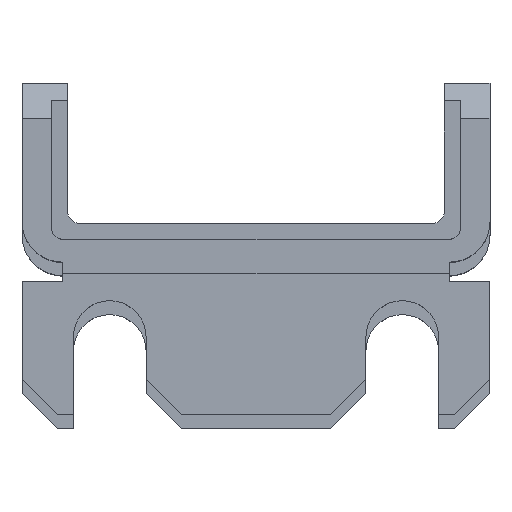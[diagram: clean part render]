
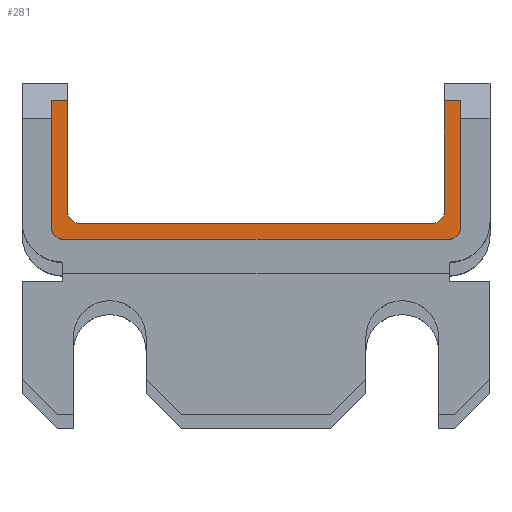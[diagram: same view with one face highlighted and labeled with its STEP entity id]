
A CAD part, top view. The second image highlights one B-rep face of the part: STEP entity #281.
In plain terms, the highlighted planar face has unit normal (0, 0, 1).
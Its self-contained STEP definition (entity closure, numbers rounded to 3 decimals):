
#84 = CIRCLE ( 'NONE', #2144, 1. ) ;
#89 = CIRCLE ( 'NONE', #2256, 1. ) ;
#104 = CIRCLE ( 'NONE', #2309, 1. ) ;
#105 = CIRCLE ( 'NONE', #2321, 1. ) ;
#281 = ADVANCED_FACE ( 'NONE', ( #2341 ), #1707, .F. ) ;
#299 = EDGE_CURVE ( 'NONE', #706, #742, #1765, .T. ) ;
#300 = EDGE_CURVE ( 'NONE', #1064, #706, #1768, .T. ) ;
#301 = EDGE_CURVE ( 'NONE', #1032, #1029, #84, .T. ) ;
#302 = EDGE_CURVE ( 'NONE', #1055, #743, #89, .T. ) ;
#303 = EDGE_CURVE ( 'NONE', #734, #678, #1777, .T. ) ;
#304 = EDGE_CURVE ( 'NONE', #678, #727, #1780, .T. ) ;
#437 = EDGE_CURVE ( 'NONE', #687, #734, #104, .T. ) ;
#438 = EDGE_CURVE ( 'NONE', #701, #687, #2392, .T. ) ;
#439 = EDGE_CURVE ( 'NONE', #742, #701, #105, .T. ) ;
#443 = ORIENTED_EDGE ( 'NONE', *, *, #437, .T. ) ;
#444 = ORIENTED_EDGE ( 'NONE', *, *, #438, .T. ) ;
#445 = ORIENTED_EDGE ( 'NONE', *, *, #299, .T. ) ;
#446 = ORIENTED_EDGE ( 'NONE', *, *, #439, .T. ) ;
#447 = ORIENTED_EDGE ( 'NONE', *, *, #300, .T. ) ;
#448 = ORIENTED_EDGE ( 'NONE', *, *, #3063, .T. ) ;
#449 = ORIENTED_EDGE ( 'NONE', *, *, #301, .T. ) ;
#450 = ORIENTED_EDGE ( 'NONE', *, *, #3058, .T. ) ;
#451 = ORIENTED_EDGE ( 'NONE', *, *, #302, .T. ) ;
#452 = ORIENTED_EDGE ( 'NONE', *, *, #304, .T. ) ;
#453 = ORIENTED_EDGE ( 'NONE', *, *, #3066, .T. ) ;
#454 = ORIENTED_EDGE ( 'NONE', *, *, #303, .T. ) ;
#678 = VERTEX_POINT ( 'NONE', #2452 ) ;
#687 = VERTEX_POINT ( 'NONE', #2461 ) ;
#701 = VERTEX_POINT ( 'NONE', #2475 ) ;
#706 = VERTEX_POINT ( 'NONE', #2480 ) ;
#727 = VERTEX_POINT ( 'NONE', #2501 ) ;
#734 = VERTEX_POINT ( 'NONE', #2508 ) ;
#742 = VERTEX_POINT ( 'NONE', #2516 ) ;
#743 = VERTEX_POINT ( 'NONE', #2517 ) ;
#1029 = VERTEX_POINT ( 'NONE', #2563 ) ;
#1032 = VERTEX_POINT ( 'NONE', #2566 ) ;
#1055 = VERTEX_POINT ( 'NONE', #2589 ) ;
#1064 = VERTEX_POINT ( 'NONE', #2598 ) ;
#1084 = EDGE_LOOP ( 'NONE', ( #454, #452, #453, #451, #450, #449, #448, #447, #445, #446, #444, #443 ) ) ;
#1707 = PLANE ( 'NONE',  #2318 ) ;
#1708 = CARTESIAN_POINT ( 'NONE',  ( 0., 0., 0. ) ) ;
#1709 = DIRECTION ( 'NONE',  ( 0., 0., -1. ) ) ;
#1710 = DIRECTION ( 'NONE',  ( -1., 0., 0. ) ) ;
#1731 = CARTESIAN_POINT ( 'NONE',  ( 2.4, 2.36, 0. ) ) ;
#1765 = LINE ( 'NONE', #1766, #2065 ) ;
#1766 = CARTESIAN_POINT ( 'NONE',  ( 0., 0., 0. ) ) ;
#1767 = DIRECTION ( 'NONE',  ( 0., -1., 0. ) ) ;
#1768 = LINE ( 'NONE', #1769, #2214 ) ;
#1769 = CARTESIAN_POINT ( 'NONE',  ( 1., 11.84, 0. ) ) ;
#1770 = DIRECTION ( 'NONE',  ( -1., 0., 0. ) ) ;
#1771 = DIRECTION ( 'NONE',  ( 0., 0., -1. ) ) ;
#1772 = DIRECTION ( 'NONE',  ( -1., 0., 0. ) ) ;
#1773 = CARTESIAN_POINT ( 'NONE',  ( 32.6, 2.36, 0. ) ) ;
#1774 = DIRECTION ( 'NONE',  ( 0., 0., -1. ) ) ;
#1775 = DIRECTION ( 'NONE',  ( -1., 0., 0. ) ) ;
#1777 = LINE ( 'NONE', #1778, #2137 ) ;
#1778 = CARTESIAN_POINT ( 'NONE',  ( 35., 13.34, 0. ) ) ;
#1779 = DIRECTION ( 'NONE',  ( 0., 1., 0. ) ) ;
#1780 = LINE ( 'NONE', #1781, #2239 ) ;
#1781 = CARTESIAN_POINT ( 'NONE',  ( 1., 11.84, 0. ) ) ;
#1782 = DIRECTION ( 'NONE',  ( -1., 0., 0. ) ) ;
#1995 = CARTESIAN_POINT ( 'NONE',  ( 34., 1., 0. ) ) ;
#2065 = VECTOR ( 'NONE', #1767, 1000. ) ;
#2104 = VECTOR ( 'NONE', #2876, 1000. ) ;
#2109 = VECTOR ( 'NONE', #2867, 1000. ) ;
#2125 = VECTOR ( 'NONE', #2851, 1000. ) ;
#2137 = VECTOR ( 'NONE', #1779, 1000. ) ;
#2144 = AXIS2_PLACEMENT_3D ( 'NONE', #1731, #1771, #1772 ) ;
#2214 = VECTOR ( 'NONE', #1770, 1000. ) ;
#2239 = VECTOR ( 'NONE', #1782, 1000. ) ;
#2256 = AXIS2_PLACEMENT_3D ( 'NONE', #1773, #1774, #1775 ) ;
#2306 = VECTOR ( 'NONE', #2394, 1000. ) ;
#2309 = AXIS2_PLACEMENT_3D ( 'NONE', #1995, #2389, #2390 ) ;
#2318 = AXIS2_PLACEMENT_3D ( 'NONE', #1708, #1709, #1710 ) ;
#2321 = AXIS2_PLACEMENT_3D ( 'NONE', #2391, #2395, #2396 ) ;
#2341 = FACE_OUTER_BOUND ( 'NONE', #1084, .T. ) ;
#2389 = DIRECTION ( 'NONE',  ( 0., 0., 1. ) ) ;
#2390 = DIRECTION ( 'NONE',  ( -1., 0., 0. ) ) ;
#2391 = CARTESIAN_POINT ( 'NONE',  ( 1., 1., 0. ) ) ;
#2392 = LINE ( 'NONE', #2393, #2306 ) ;
#2393 = CARTESIAN_POINT ( 'NONE',  ( 35., 0., 0. ) ) ;
#2394 = DIRECTION ( 'NONE',  ( 1., 0., 0. ) ) ;
#2395 = DIRECTION ( 'NONE',  ( 0., 0., 1. ) ) ;
#2396 = DIRECTION ( 'NONE',  ( -1., 0., 0. ) ) ;
#2452 = CARTESIAN_POINT ( 'NONE',  ( 35., 11.84, 0. ) ) ;
#2461 = CARTESIAN_POINT ( 'NONE',  ( 34., 0., 0. ) ) ;
#2475 = CARTESIAN_POINT ( 'NONE',  ( 1., 0., 0. ) ) ;
#2480 = CARTESIAN_POINT ( 'NONE',  ( 0., 11.84, 0. ) ) ;
#2501 = CARTESIAN_POINT ( 'NONE',  ( 33.6, 11.84, 0. ) ) ;
#2508 = CARTESIAN_POINT ( 'NONE',  ( 35., 1., 0. ) ) ;
#2516 = CARTESIAN_POINT ( 'NONE',  ( 0., 1., 0. ) ) ;
#2517 = CARTESIAN_POINT ( 'NONE',  ( 32.6, 1.36, 0. ) ) ;
#2563 = CARTESIAN_POINT ( 'NONE',  ( 1.4, 2.36, 0. ) ) ;
#2566 = CARTESIAN_POINT ( 'NONE',  ( 2.4, 1.36, 0. ) ) ;
#2589 = CARTESIAN_POINT ( 'NONE',  ( 33.6, 2.36, 0. ) ) ;
#2598 = CARTESIAN_POINT ( 'NONE',  ( 1.4, 11.84, 0. ) ) ;
#2849 = LINE ( 'NONE', #2850, #2125 ) ;
#2850 = CARTESIAN_POINT ( 'NONE',  ( 1.4, 1.36, 0. ) ) ;
#2851 = DIRECTION ( 'NONE',  ( -1., 0., 0. ) ) ;
#2865 = LINE ( 'NONE', #2866, #2109 ) ;
#2866 = CARTESIAN_POINT ( 'NONE',  ( 1.4, 13.34, 0. ) ) ;
#2867 = DIRECTION ( 'NONE',  ( 0., 1., 0. ) ) ;
#2874 = LINE ( 'NONE', #2875, #2104 ) ;
#2875 = CARTESIAN_POINT ( 'NONE',  ( 33.6, 1.36, 0. ) ) ;
#2876 = DIRECTION ( 'NONE',  ( 0., -1., 0. ) ) ;
#3058 = EDGE_CURVE ( 'NONE', #743, #1032, #2849, .T. ) ;
#3063 = EDGE_CURVE ( 'NONE', #1029, #1064, #2865, .T. ) ;
#3066 = EDGE_CURVE ( 'NONE', #727, #1055, #2874, .T. ) ;
